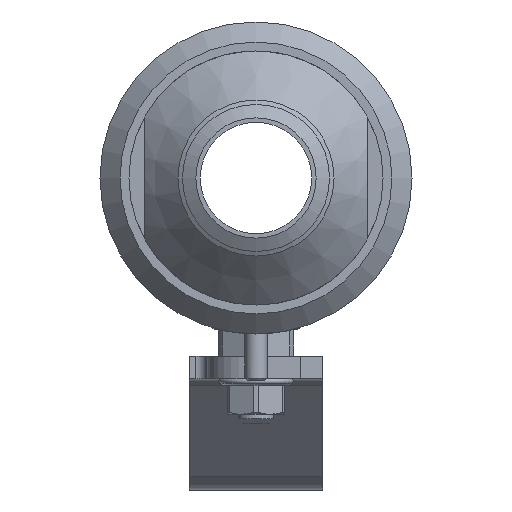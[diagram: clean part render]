
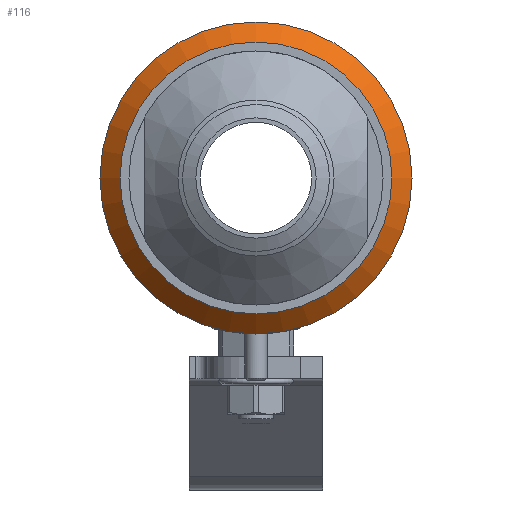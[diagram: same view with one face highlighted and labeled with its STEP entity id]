
A CAD part, left-side view. The second image highlights one B-rep face of the part: STEP entity #116.
In plain terms, the highlighted conical face has half-angle 45 degrees and reference radius 32.75 mm.
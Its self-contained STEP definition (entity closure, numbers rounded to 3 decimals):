
#116=ADVANCED_FACE('',(#900),#902,.T.);
#900=FACE_OUTER_BOUND('',#901,.T.);
#901=EDGE_LOOP('',(#1832,#1833,#1834,#1835));
#902=CONICAL_SURFACE('',#903,32.75,0.785);
#903=AXIS2_PLACEMENT_3D('',#904,#905,#906);
#904=CARTESIAN_POINT('',(-23.75,0.,0.));
#905=DIRECTION('',(1.,0.,0.));
#906=DIRECTION('',(0.,1.,0.));
#1832=ORIENTED_EDGE('',*,*,#2679,.T.);
#1833=ORIENTED_EDGE('',*,*,#2672,.T.);
#1834=ORIENTED_EDGE('',*,*,#2679,.F.);
#1835=ORIENTED_EDGE('',*,*,#2680,.F.);
#2672=EDGE_CURVE('',#2966,#2966,#2968,.T.);
#2679=EDGE_CURVE('',#2979,#2966,#2980,.T.);
#2680=EDGE_CURVE('',#2979,#2979,#2981,.T.);
#2966=VERTEX_POINT('',#4244);
#2968=CIRCLE('',#4248,35.);
#2979=VERTEX_POINT('',#4278);
#2980=LINE('',#4279,#4280);
#2981=CIRCLE('',#4282,30.5);
#4244=CARTESIAN_POINT('',(-21.5,-35.,0.));
#4248=AXIS2_PLACEMENT_3D('',#4249,#4250,#4251);
#4249=CARTESIAN_POINT('',(-21.5,0.,0.));
#4250=DIRECTION('',(-1.,-0.,0.));
#4251=DIRECTION('',(0.,-1.,0.));
#4278=CARTESIAN_POINT('',(-26.,-30.5,0.));
#4279=CARTESIAN_POINT('',(-26.,-30.5,0.));
#4280=VECTOR('',#4281,1.);
#4281=DIRECTION('',(0.707,-0.707,0.));
#4282=AXIS2_PLACEMENT_3D('',#4283,#4284,#4285);
#4283=CARTESIAN_POINT('',(-26.,0.,0.));
#4284=DIRECTION('',(-1.,-0.,-0.));
#4285=DIRECTION('',(0.,-1.,0.));
